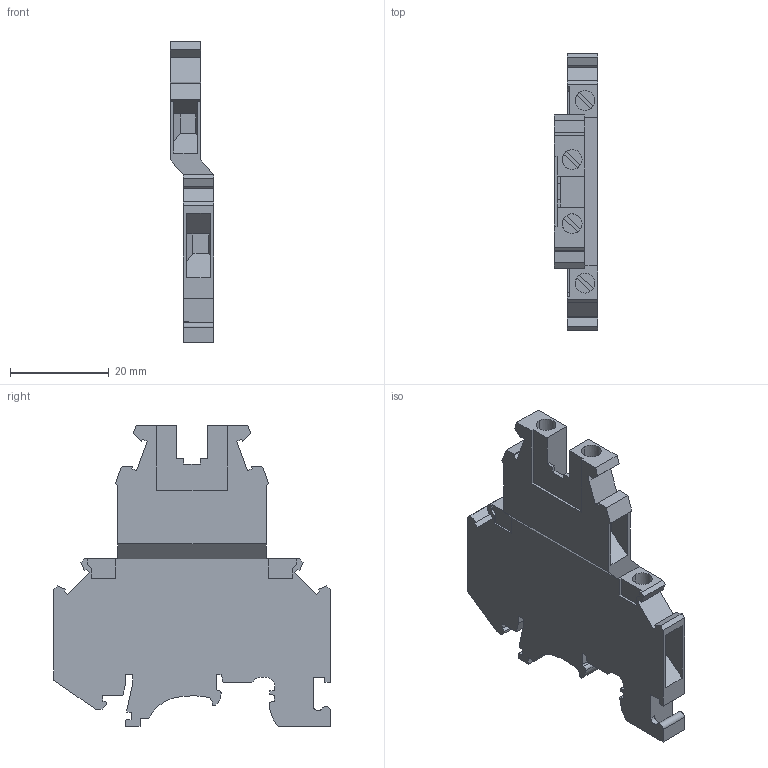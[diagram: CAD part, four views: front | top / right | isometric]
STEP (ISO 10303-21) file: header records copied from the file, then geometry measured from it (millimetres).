
FILE_DESCRIPTION(('STEP AP203'),'1');
FILE_NAME('2774017.stp','2022-01-19T13:04:41',('TraceParts'),('TraceParts S.A.'),'Spatial InterOp 3D',' ',' ');
FILE_SCHEMA(('CONFIG_CONTROL_DESIGN'));
Length unit declared in the file: millimetre
Products named in the file (1): 1
Bounding box: 8.75 x 56 x 60.9 mm (x, y, z)
Volume: 11953.1 mm3; surface area: 7567.3 mm2
Topology: 1 solids, 1 shells, 206 faces, 586 edges, 388 vertices
Faces by surface type: plane 182, cylinder 24
Entity records: 6655 total; most frequent: CARTESIAN_POINT 1181, ORIENTED_EDGE 1172, DIRECTION 1065, EDGE_CURVE 586, LINE 521, VECTOR 521, VERTEX_POINT 388, AXIS2_PLACEMENT_3D 272
